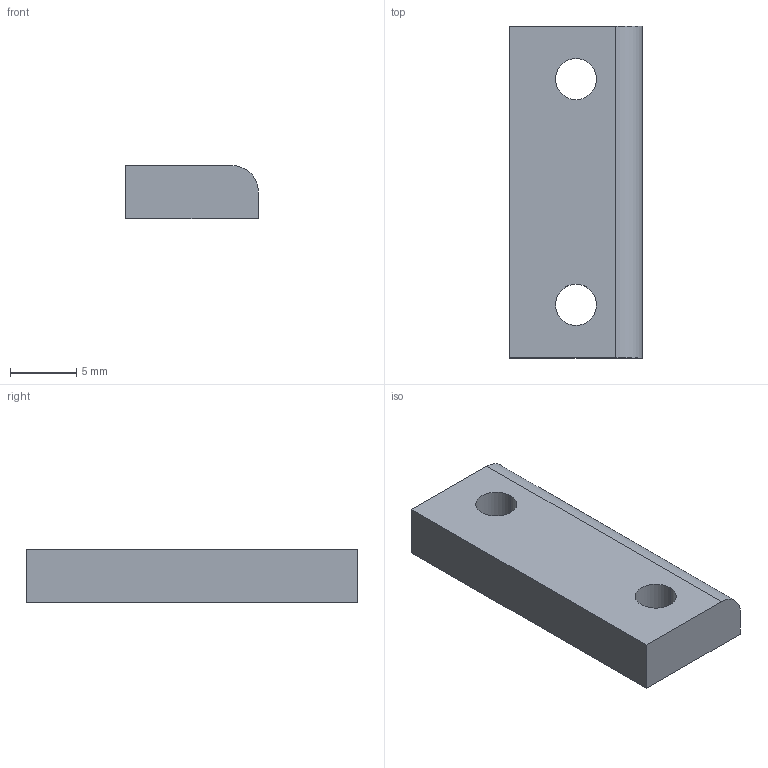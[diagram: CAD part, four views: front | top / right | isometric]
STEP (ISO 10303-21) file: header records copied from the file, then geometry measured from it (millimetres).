
FILE_DESCRIPTION (( 'STEP AP203' ), '1' );
FILE_NAME ('flat-spring-cover2.STEP', '2024-07-01T06:57:59', ( '' ), ( '' ), 'SwSTEP 2.0', 'SolidWorks 2021', '' );
FILE_SCHEMA (( 'CONFIG_CONTROL_DESIGN' ));
Length unit declared in the file: millimetre
Products named in the file (1): flat-spring-cover2
Bounding box: 10 x 25 x 4 mm (x, y, z)
Volume: 918.2 mm3; surface area: 804.5 mm2
Topology: 1 solids, 1 shells, 11 faces, 27 edges, 18 vertices
Faces by surface type: plane 6, cylinder 5
Entity records: 416 total; most frequent: DIRECTION 61, CARTESIAN_POINT 57, ORIENTED_EDGE 54, EDGE_CURVE 27, AXIS2_PLACEMENT_3D 22, VERTEX_POINT 18, VECTOR 17, LINE 17
